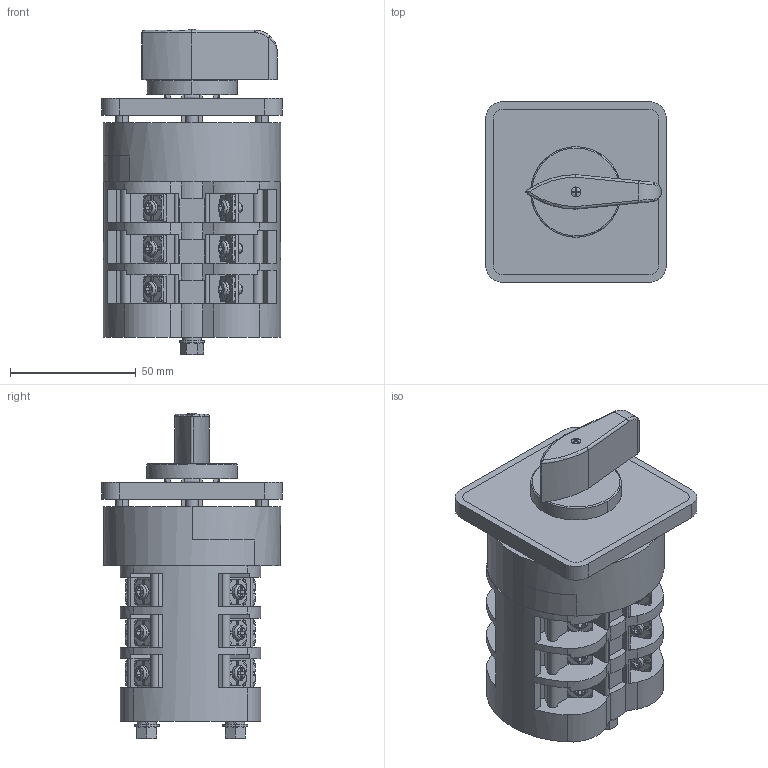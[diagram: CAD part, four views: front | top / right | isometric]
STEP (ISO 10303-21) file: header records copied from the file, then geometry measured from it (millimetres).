
FILE_DESCRIPTION((''),'2;1');
FILE_NAME('2470000100_SW0001','2025-04-08T',('sipei.wu'),(''),'PRO/ENGINEER BY PARAMETRIC TECHNOLOGY CORPORATION, 2015440','PRO/ENGINEER BY PARAMETRIC TECHNOLOGY CORPORATION, 2015440','');
FILE_SCHEMA(('CONFIG_CONTROL_DESIGN'));
Products named in the file (1): 2470000100_SW0001
Bounding box: 72 x 72 x 129.53 mm (x, y, z)
Volume: 273552.8 mm3; surface area: 93342.9 mm2
Topology: 1 solids, 20 shells, 2574 faces, 7240 edges, 4640 vertices
Faces by surface type: plane 1681, cylinder 698, cone 94, torus 70, sphere 26, bspline 5
Entity records: 85167 total; most frequent: CARTESIAN_POINT 17569, ORIENTED_EDGE 14480, DIRECTION 13927, EDGE_CURVE 7240, VECTOR 4841, LINE 4841, VERTEX_POINT 4640, AXIS2_PLACEMENT_3D 4543
